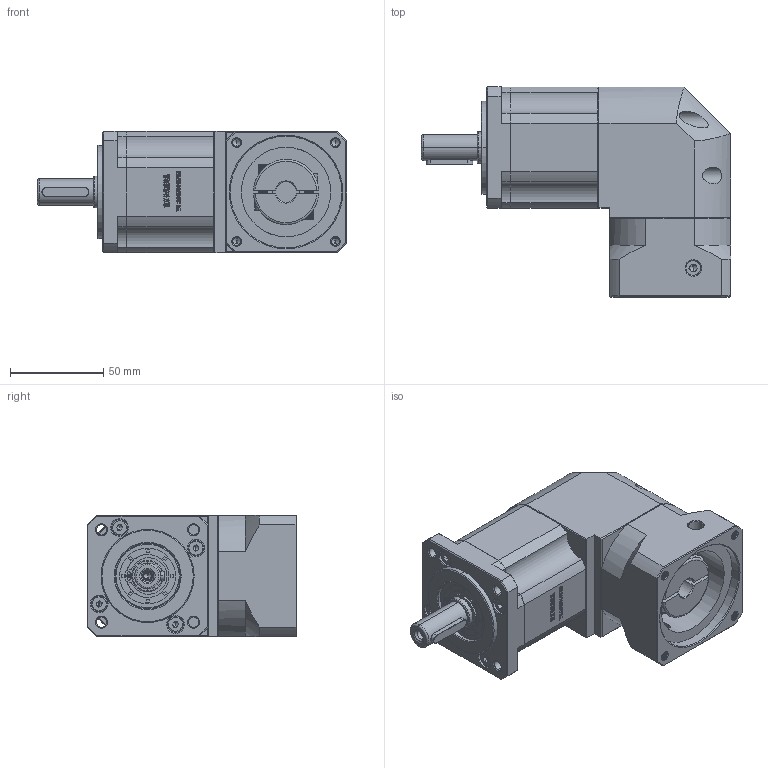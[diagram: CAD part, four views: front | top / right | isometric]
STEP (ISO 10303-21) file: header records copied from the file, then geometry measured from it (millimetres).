
FILE_DESCRIPTION (( 'STEP AP214' ), '1' );
FILE_NAME ('ZBR60-D14-L2-11-60-75-M5.STEP', '2022-04-19T08:48:32', ( '' ), ( 'Microsoft' ), 'SwSTEP 2.0', 'SolidWorks 2016', '' );
FILE_SCHEMA (( 'AUTOMOTIVE_DESIGN' ));
Length unit declared in the file: millimetre
Products named in the file (1): ZBR60-D14-L2-11-60-75-M5
Bounding box: 166 x 112.7 x 65 mm (x, y, z)
Volume: 601429.6 mm3; surface area: 83081.2 mm2
Topology: 5 solids, 5 shells, 2843 faces, 7685 edges, 4978 vertices
Faces by surface type: plane 1472, bspline 591, cylinder 432, cone 326, torus 22
Entity records: 155293 total; most frequent: CARTESIAN_POINT 56983, ORIENTED_EDGE 15310, DIRECTION 11621, EDGE_CURVE 7655, LINE 5057, VECTOR 5057, VERTEX_POINT 4978, AXIS2_PLACEMENT_3D 3282
